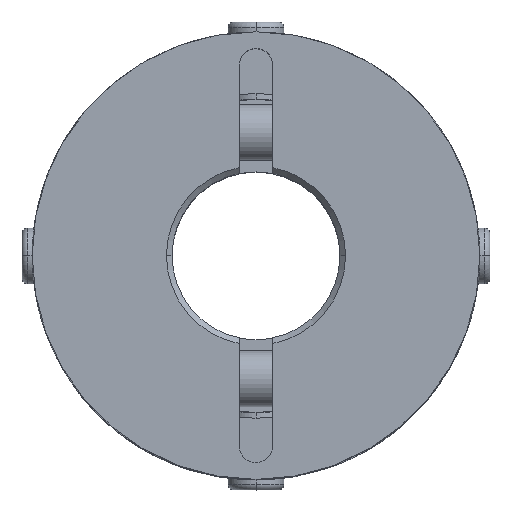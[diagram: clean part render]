
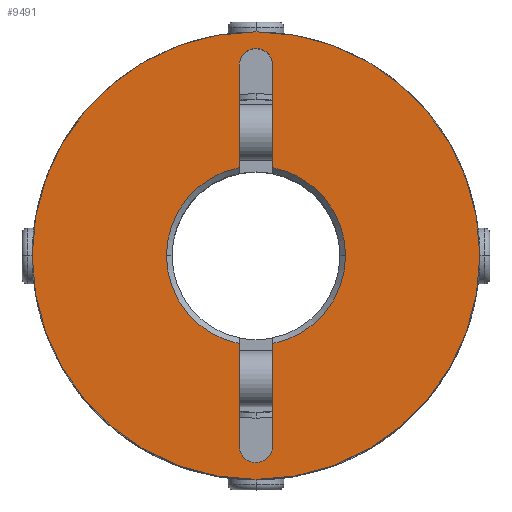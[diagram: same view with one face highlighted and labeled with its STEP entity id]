
A CAD part, top view. The second image highlights one B-rep face of the part: STEP entity #9491.
In plain terms, the highlighted planar face has unit normal (0, 0, 1).
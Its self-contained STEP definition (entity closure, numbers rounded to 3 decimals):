
#829=CARTESIAN_POINT('',(-20.0,0.,20.0));
#830=VERTEX_POINT('',#829);
#837=CARTESIAN_POINT('',(20.0,0.0,20.0));
#838=VERTEX_POINT('',#837);
#839=CARTESIAN_POINT('',(0.0,0.0,20.0));
#840=DIRECTION('',(0.0,0.0,-1.0));
#841=DIRECTION('',(1.0,0.0,0.0));
#842=AXIS2_PLACEMENT_3D('',#839,#840,#841);
#843=CIRCLE('',#842,20.0);
#844=EDGE_CURVE('',#830,#838,#843,.T.);
#1155=CARTESIAN_POINT('',(-1.061,18.061,20.0));
#1156=VERTEX_POINT('',#1155);
#1172=CARTESIAN_POINT('',(1.5,17.,20.0));
#1173=VERTEX_POINT('',#1172);
#1180=CARTESIAN_POINT('',(0.,17.,20.0));
#1181=DIRECTION('',(0.0,0.0,1.));
#1182=DIRECTION('',(0.707,0.707,0.0));
#1183=AXIS2_PLACEMENT_3D('',#1180,#1181,#1182);
#1184=CIRCLE('',#1183,1.5);
#1185=EDGE_CURVE('',#1173,#1156,#1184,.T.);
#1197=CARTESIAN_POINT('',(1.061,-18.061,20.0));
#1198=VERTEX_POINT('',#1197);
#1214=CARTESIAN_POINT('',(-1.5,-17.,20.0));
#1215=VERTEX_POINT('',#1214);
#1222=CARTESIAN_POINT('',(0.0,-17.,20.0));
#1223=DIRECTION('',(0.0,0.0,1.0));
#1224=DIRECTION('',(-0.707,-0.707,0.0));
#1225=AXIS2_PLACEMENT_3D('',#1222,#1223,#1224);
#1226=CIRCLE('',#1225,1.5);
#1227=EDGE_CURVE('',#1215,#1198,#1226,.T.);
#1237=CARTESIAN_POINT('',(-8.0,0.,20.0));
#1238=VERTEX_POINT('',#1237);
#1245=CARTESIAN_POINT('',(-1.5,-7.858,20.0));
#1246=VERTEX_POINT('',#1245);
#1247=CARTESIAN_POINT('',(0.0,0.0,20.0));
#1248=DIRECTION('',(0.0,0.0,1.0));
#1249=DIRECTION('',(-1.0,0.0,0.0));
#1250=AXIS2_PLACEMENT_3D('',#1247,#1248,#1249);
#1251=CIRCLE('',#1250,8.0);
#1252=EDGE_CURVE('',#1238,#1246,#1251,.T.);
#1276=CARTESIAN_POINT('',(8.0,0.,20.0));
#1277=VERTEX_POINT('',#1276);
#1284=CARTESIAN_POINT('',(1.5,7.858,20.0));
#1285=VERTEX_POINT('',#1284);
#1286=CARTESIAN_POINT('',(0.0,0.0,20.0));
#1287=DIRECTION('',(0.0,0.0,1.0));
#1288=DIRECTION('',(1.0,0.0,0.0));
#1289=AXIS2_PLACEMENT_3D('',#1286,#1287,#1288);
#1290=CIRCLE('',#1289,8.0);
#1291=EDGE_CURVE('',#1277,#1285,#1290,.T.);
#9296=CARTESIAN_POINT('',(-1.5,17.,20.0));
#9297=VERTEX_POINT('',#9296);
#9304=CARTESIAN_POINT('',(-1.5,7.858,20.0));
#9305=VERTEX_POINT('',#9304);
#9306=CARTESIAN_POINT('',(-1.5,7.858,20.0));
#9307=DIRECTION('',(0.0,1.0,0.0));
#9308=VECTOR('',#9307,9.142);
#9309=LINE('',#9306,#9308);
#9310=EDGE_CURVE('',#9305,#9297,#9309,.T.);
#9385=CARTESIAN_POINT('',(1.5,17.,20.0));
#9386=DIRECTION('',(0.0,-1.0,0.0));
#9387=VECTOR('',#9386,9.142);
#9388=LINE('',#9385,#9387);
#9389=EDGE_CURVE('',#1173,#1285,#9388,.T.);
#9407=CARTESIAN_POINT('',(1.5,-7.858,20.0));
#9408=VERTEX_POINT('',#9407);
#9422=CARTESIAN_POINT('',(0.0,0.0,20.0));
#9423=DIRECTION('',(0.0,0.0,1.0));
#9424=DIRECTION('',(1.0,0.0,0.0));
#9425=AXIS2_PLACEMENT_3D('',#9422,#9423,#9424);
#9426=CIRCLE('',#9425,8.0);
#9427=EDGE_CURVE('',#9408,#1277,#9426,.T.);
#9432=CARTESIAN_POINT('',(1.818,0.,20.0));
#9433=DIRECTION('',(0.0,0.0,1.0));
#9434=DIRECTION('',(1.0,0.0,0.0));
#9435=AXIS2_PLACEMENT_3D('',#9432,#9433,#9434);
#9436=PLANE('',#9435);
#9437=CARTESIAN_POINT('',(0.0,0.0,20.0));
#9438=DIRECTION('',(0.0,0.0,-1.0));
#9439=DIRECTION('',(1.0,0.0,0.0));
#9440=AXIS2_PLACEMENT_3D('',#9437,#9438,#9439);
#9441=CIRCLE('',#9440,20.0);
#9442=EDGE_CURVE('',#838,#830,#9441,.T.);
#9443=ORIENTED_EDGE('',*,*,#9442,.F.);
#9444=ORIENTED_EDGE('',*,*,#844,.F.);
#9445=EDGE_LOOP('',(#9443,#9444));
#9446=FACE_OUTER_BOUND('',#9445,.T.);
#9447=ORIENTED_EDGE('',*,*,#9427,.F.);
#9448=CARTESIAN_POINT('',(1.5,-17.,20.0));
#9449=VERTEX_POINT('',#9448);
#9450=CARTESIAN_POINT('',(1.5,-7.858,20.0));
#9451=DIRECTION('',(0.0,-1.0,0.0));
#9452=VECTOR('',#9451,9.142);
#9453=LINE('',#9450,#9452);
#9454=EDGE_CURVE('',#9408,#9449,#9453,.T.);
#9455=ORIENTED_EDGE('',*,*,#9454,.T.);
#9456=CARTESIAN_POINT('',(0.0,-17.,20.0));
#9457=DIRECTION('',(0.0,0.0,1.0));
#9458=DIRECTION('',(-0.707,-0.707,0.0));
#9459=AXIS2_PLACEMENT_3D('',#9456,#9457,#9458);
#9460=CIRCLE('',#9459,1.5);
#9461=EDGE_CURVE('',#1198,#9449,#9460,.T.);
#9462=ORIENTED_EDGE('',*,*,#9461,.F.);
#9463=ORIENTED_EDGE('',*,*,#1227,.F.);
#9464=CARTESIAN_POINT('',(-1.5,-17.,20.0));
#9465=DIRECTION('',(0.0,1.0,0.0));
#9466=VECTOR('',#9465,9.142);
#9467=LINE('',#9464,#9466);
#9468=EDGE_CURVE('',#1215,#1246,#9467,.T.);
#9469=ORIENTED_EDGE('',*,*,#9468,.T.);
#9470=ORIENTED_EDGE('',*,*,#1252,.F.);
#9471=CARTESIAN_POINT('',(0.0,0.0,20.0));
#9472=DIRECTION('',(0.0,0.0,1.0));
#9473=DIRECTION('',(-1.0,0.0,0.0));
#9474=AXIS2_PLACEMENT_3D('',#9471,#9472,#9473);
#9475=CIRCLE('',#9474,8.0);
#9476=EDGE_CURVE('',#9305,#1238,#9475,.T.);
#9477=ORIENTED_EDGE('',*,*,#9476,.F.);
#9478=ORIENTED_EDGE('',*,*,#9310,.T.);
#9479=CARTESIAN_POINT('',(0.,17.,20.0));
#9480=DIRECTION('',(0.0,0.0,1.));
#9481=DIRECTION('',(0.707,0.707,0.0));
#9482=AXIS2_PLACEMENT_3D('',#9479,#9480,#9481);
#9483=CIRCLE('',#9482,1.5);
#9484=EDGE_CURVE('',#1156,#9297,#9483,.T.);
#9485=ORIENTED_EDGE('',*,*,#9484,.F.);
#9486=ORIENTED_EDGE('',*,*,#1185,.F.);
#9487=ORIENTED_EDGE('',*,*,#9389,.T.);
#9488=ORIENTED_EDGE('',*,*,#1291,.F.);
#9489=EDGE_LOOP('',(#9447,#9455,#9462,#9463,#9469,#9470,#9477,#9478,#9485,#9486,#9487,#9488));
#9490=FACE_BOUND('',#9489,.T.);
#9491=ADVANCED_FACE('',(#9446,#9490),#9436,.T.);
